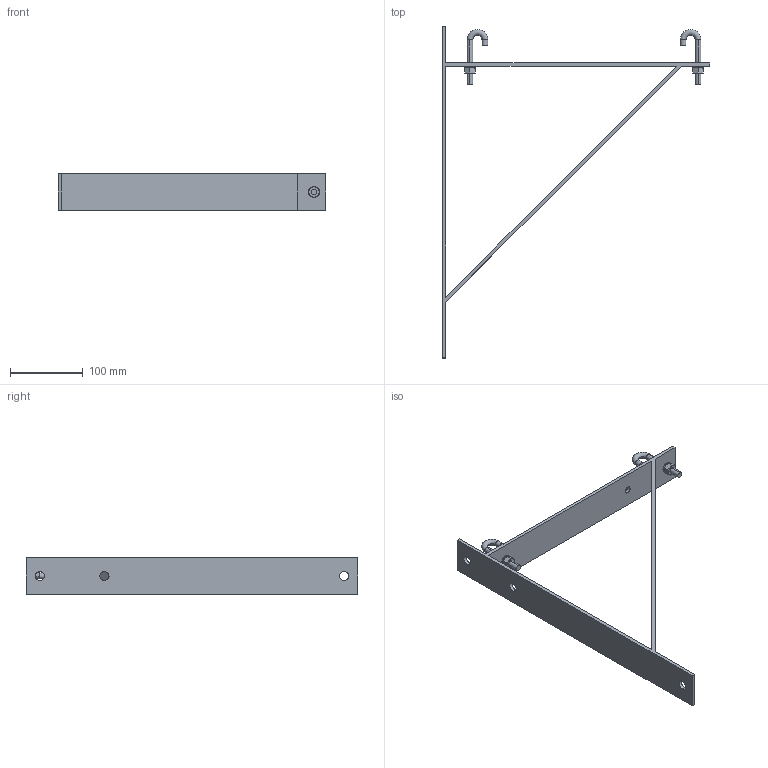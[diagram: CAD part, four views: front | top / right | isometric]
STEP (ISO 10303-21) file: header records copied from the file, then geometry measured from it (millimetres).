
FILE_DESCRIPTION (( 'STEP AP203' ), '1' );
FILE_NAME ('ltsb12gz.STEP', '2010-10-14T17:34:44', ( 'Hoffman User' ), ( 'Hoffman Enclosures' ), 'SwSTEP 2.0', 'SolidWorks 2009', '' );
FILE_SCHEMA (( 'CONFIG_CONTROL_DESIGN' ));
Length unit declared in the file: inch
Products named in the file (5): Nut.31; ltsb12gz; TriangleSupportBracket6and12inch; WasherLock.31; Hook
Assembly tree (7 placements, depth 2):
  ltsb12gz
    WasherLock.31  x2
    TriangleSupportBracket6and12inch
    Hook  x2
    Nut.31  x2
Bounding box: 368.3 x 457.2 x 50.8 mm (x, y, z)
Volume: 318523.4 mm3; surface area: 149016.6 mm2
Topology: 7 solids, 7 shells, 110 faces, 248 edges, 152 vertices
Faces by surface type: plane 42, cylinder 32, cone 32, torus 4
Entity records: 2687 total; most frequent: CARTESIAN_POINT 466, DIRECTION 354, ORIENTED_EDGE 320, EDGE_CURVE 160, AXIS2_PLACEMENT_3D 140, VERTEX_POINT 100, EDGE_LOOP 84, LINE 74
